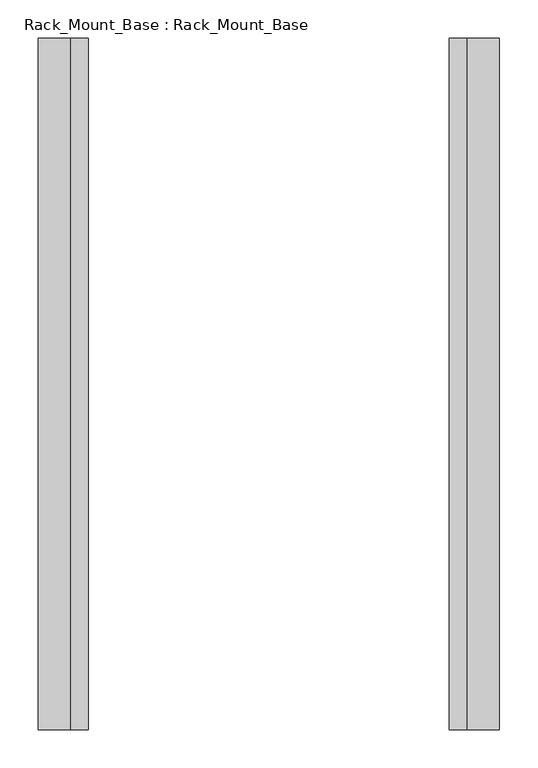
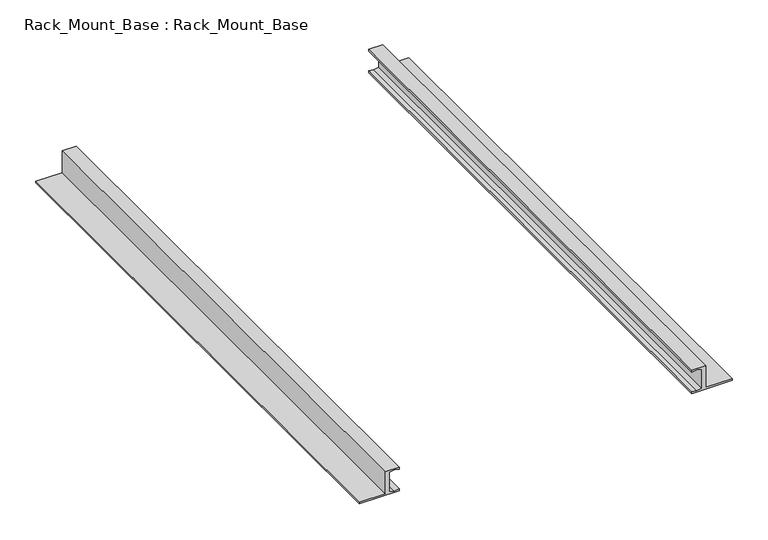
"""IFC4 building model written with IfcOpenShell, lengths in millimetres: proxy geometry, Rack_Mount_Base : Rack_Mount_Base."""

import ifcopenshell
import ifcopenshell.guid

model = None  # the IFC model being written
_history = None  # IfcOwnerHistory: only IFC2X3 demands one
_inside = {}  # id of a spatial element -> (the spatial element, [elements in it])
_under = {}  # id of a project, library or spatial element -> (it, [spatial elements below it])
_declared = {}  # id of a project -> (the project, [libraries it declares])
_typed = {}  # id of a type object -> (the type object, [elements of that type])
_made_of = {}  # id of a material, layer set ... -> (it, [elements and type objects made of it])


def new_model(schema):
    """Start an empty IFC model of exactly this schema.

    Asked for "IFC4X3", IfcOpenShell would pick the latest addendum, in which some entities
    have other attributes; the version numbers below select the first issue.
    IFC2X3 requires an IfcOwnerHistory on every rooted entity: one is made here for all.
    """
    global model, _history
    if schema == "IFC4X3":
        model = ifcopenshell.file(schema_version=(4, 3, 0, 0))
    else:
        model = ifcopenshell.file(schema=schema)
    _inside.clear()
    _under.clear()
    _declared.clear()
    _typed.clear()
    _made_of.clear()
    _history = None
    if model.schema == "IFC2X3":
        org = make("IfcOrganization", Name="unknown")
        user = make(
            "IfcPersonAndOrganization",
            ThePerson=make("IfcPerson", FamilyName="unknown"),
            TheOrganization=org,
        )
        app = make(
            "IfcApplication",
            ApplicationDeveloper=org,
            Version="unknown",
            ApplicationFullName="unknown",
            ApplicationIdentifier="unknown",
        )
        _history = make(
            "IfcOwnerHistory",
            OwningUser=user,
            OwningApplication=app,
            ChangeAction="ADDED",
            CreationDate=0,
        )
    return model


def make(cls, **values):
    """One entity of the class cls with the attributes given. An attribute that is None is left unset."""
    return model.create_entity(
        cls, **{name: value for name, value in values.items() if value is not None}
    )


def rooted(cls, **values):
    """An entity with a GlobalId (a new one), such as an element, a storey or a relation."""
    return make(cls, GlobalId=ifcopenshell.guid.new(), OwnerHistory=_history, **values)


def si_unit(unit_type, name, prefix=None):
    """IfcSIUnit, for example si_unit("LENGTHUNIT", "METRE", prefix="MILLI")."""
    return make("IfcSIUnit", UnitType=unit_type, Prefix=prefix, Name=name)


def assignment(units):
    """IfcUnitAssignment: the units of a project."""
    return None if units is None else make("IfcUnitAssignment", Units=units)


def point(xyz):
    """IfcCartesianPoint."""
    return None if xyz is None else make("IfcCartesianPoint", Coordinates=xyz)


def direction(xyz):
    """IfcDirection."""
    return None if xyz is None else make("IfcDirection", DirectionRatios=xyz)


def frame(location, z_axis=None, x_axis=None):
    """IfcAxis2Placement3D, a coordinate frame: its origin and axes. An axis left out is left unset."""
    return make(
        "IfcAxis2Placement3D",
        Location=point(location),
        Axis=direction(z_axis),
        RefDirection=direction(x_axis),
    )


def origin():
    """The frame at (0, 0, 0) with its axes left unset."""
    return frame((0.0, 0.0, 0.0))


def place(relative_to, where):
    """IfcLocalPlacement: puts the frame where relative to a parent placement (None: the world)."""
    return make(
        "IfcLocalPlacement", PlacementRelTo=relative_to, RelativePlacement=where
    )


def context(
    kind, dimensions, precision=None, world=None, true_north=None, identifier=None
):
    """IfcGeometricRepresentationContext, for example the 3D "Model" context."""
    return make(
        "IfcGeometricRepresentationContext",
        ContextIdentifier=identifier,
        ContextType=kind,
        CoordinateSpaceDimension=dimensions,
        Precision=precision,
        WorldCoordinateSystem=world,
        TrueNorth=true_north,
    )


def project(units=None, contexts=None):
    """IfcProject with its units and contexts."""
    return rooted(
        "IfcProject",
        Name="project",
        RepresentationContexts=contexts,
        UnitsInContext=assignment(units),
    )


def spatial(cls, under=None, at=None, **own):
    """A site, building, storey or space (cls), placed at a placement, below another one or the project."""
    s = rooted(cls, ObjectPlacement=at, **own)
    if under is not None:
        _under.setdefault(under.id(), (under, []))[1].append(s)
    return s


def polyline(points):
    """IfcPolyline through the points."""
    return make("IfcPolyline", Points=[point(p) for p in points])


def outline(outer, holes=None, kind="AREA"):
    """IfcArbitraryClosedProfileDef: a profile drawn as a closed curve; with holes, ...WithVoids."""
    if holes is None:
        return make("IfcArbitraryClosedProfileDef", ProfileType=kind, OuterCurve=outer)
    return make(
        "IfcArbitraryProfileDefWithVoids",
        ProfileType=kind,
        OuterCurve=outer,
        InnerCurves=holes,
    )


def extrude(swept, where, along, depth):
    """IfcExtrudedAreaSolid: the profile swept, set in the frame where, extruded along a direction by depth."""
    return make(
        "IfcExtrudedAreaSolid",
        SweptArea=swept,
        Position=where,
        ExtrudedDirection=direction(along),
        Depth=depth,
    )


def shape(context_of_items, identifier, shape_type, items):
    """IfcShapeRepresentation: the items that make up one representation, for example the "Body"."""
    return make(
        "IfcShapeRepresentation",
        ContextOfItems=context_of_items,
        RepresentationIdentifier=identifier,
        RepresentationType=shape_type,
        Items=items,
    )


def source(mapping_origin, context_of_items, identifier, shape_type, items):
    """IfcRepresentationMap: a shape defined once, which mapped items show again and again."""
    return make(
        "IfcRepresentationMap",
        MappingOrigin=mapping_origin,
        MappedRepresentation=shape(context_of_items, identifier, shape_type, items),
    )


def transform(
    local_origin,
    x_axis=None,
    y_axis=None,
    z_axis=None,
    scale=None,
    scale2=None,
    scale3=None,
    uniform=True,
):
    """IfcCartesianTransformationOperator3D, or its non-uniform kind. x_axis, y_axis, z_axis: its Axis1, 2, 3."""
    if uniform:
        return make(
            "IfcCartesianTransformationOperator3D",
            Axis1=direction(x_axis),
            Axis2=direction(y_axis),
            LocalOrigin=point(local_origin),
            Scale=scale,
            Axis3=direction(z_axis),
        )
    return make(
        "IfcCartesianTransformationOperator3DnonUniform",
        Axis1=direction(x_axis),
        Axis2=direction(y_axis),
        LocalOrigin=point(local_origin),
        Scale=scale,
        Axis3=direction(z_axis),
        Scale2=scale2,
        Scale3=scale3,
    )


def mapped(mapping_source, mapping_target):
    """IfcMappedItem: shows the shape of a source again, moved by a transform."""
    return make(
        "IfcMappedItem", MappingSource=mapping_source, MappingTarget=mapping_target
    )


def made_of(thing, what):
    """Note that an element or type object is made of a material, layer set ...; save() writes the relation."""
    if what is not None:
        _made_of.setdefault(what.id(), (what, []))[1].append(thing)
    return thing


def element(
    cls,
    number,
    at=None,
    inside=None,
    cuts=None,
    type_object=None,
    material=None,
    context=None,
    identifier="Body",
    shape_type=None,
    held_by="IfcProductDefinitionShape",
    body=None,
    shapes=None,
    **own,
):
    """One element of the class cls, such as IfcWall. Its Tag is "e" and its number.

    at: its placement. inside: the storey or other place that contains it. cuts: it is an
    opening in that element (IfcRelVoidsElement). A single representation is given by context,
    identifier, shape_type and body (its items); several are given by shapes. held_by: the class
    of the entity that holds the representations. save() writes the other relations.
    """
    e = rooted(cls, Tag="e%d" % number, ObjectPlacement=at, **own)
    if body is not None:
        shapes = [shape(context, identifier, shape_type, body)]
    if shapes is not None:
        e.Representation = make(held_by, Representations=shapes)
    if inside is not None:
        _inside.setdefault(inside.id(), (inside, []))[1].append(e)
    if cuts is not None:
        rooted(
            "IfcRelVoidsElement", RelatingBuildingElement=cuts, RelatedOpeningElement=e
        )
    if type_object is not None:
        _typed.setdefault(type_object.id(), (type_object, []))[1].append(e)
    return made_of(e, material)


def aggregate(whole, parts):
    """IfcRelAggregates: a whole, such as a stair, and the parts it consists of."""
    return rooted("IfcRelAggregates", RelatingObject=whole, RelatedObjects=parts)


def save(model, path):
    """Write the relations noted so far, then the file.

    IfcRelAggregates (storeys below a building ...), IfcRelContainedInSpatialStructure (elements
    in a storey), IfcRelDefinesByType, IfcRelAssociatesMaterial and IfcRelDeclares: one each for
    every whole, place, type object, material and project.
    """
    for whole, parts in _under.values():
        aggregate(whole, parts)
    for where, things in _inside.values():
        rooted(
            "IfcRelContainedInSpatialStructure",
            RelatedElements=things,
            RelatingStructure=where,
        )
    for kind, things in _typed.values():
        rooted("IfcRelDefinesByType", RelatedObjects=things, RelatingType=kind)
    for what, things in _made_of.values():
        rooted("IfcRelAssociatesMaterial", RelatedObjects=things, RelatingMaterial=what)
    for by, libraries in _declared.values():
        rooted("IfcRelDeclares", RelatingContext=by, RelatedDefinitions=libraries)
    model.write(path)


def rack_mount_base_rack_mount_base_61a671b6(model_context):
    return source(origin(), model_context, "Body", "SweptSolid", [
        extrude(outline(polyline([(0.0, 0.0), (0.0, 65.0), (3.53644, 65.0), (2.0364404, 57.0000005), (3.5364397, 48.9999982), (36.4977283, 48.9999982), (37.9977287, 57.0000005), (36.4977283, 64.9999982), (39.9999999, 64.9999982), (39.9999999, 41.9999985), (2.9999995, 41.9999985), (2.9999995, 0.0), (0.0, 0.0)])), frame((0.0, -900.0, 0.0), z_axis=(0.0, 1.0, 0.0), x_axis=(0.0, 0.0, 1.0)), (0.0, 0.0, 1.0), 900.0),
        extrude(outline(polyline([(0.0, 600.0), (2.9999995, 600.0), (2.9999995, 558.0000015), (39.9999999, 558.0000015), (39.9999999, 535.0000018), (36.4977283, 535.0000018), (37.9977287, 542.9999995), (36.4977283, 551.0000018), (3.5364397, 551.0000018), (2.0364404, 542.9999995), (3.53644, 535.0), (0.0, 535.0), (0.0, 600.0)])), frame((0.0, -900.0, 0.0), z_axis=(0.0, 1.0, 0.0), x_axis=(0.0, 0.0, 1.0)), (0.0, 0.0, 1.0), 900.0),
    ])


if __name__ == "__main__":
    model = new_model("IFC4")
    model_context = context("Model", 3, world=origin())
    ifc_project = project(units=[si_unit("LENGTHUNIT", "METRE", prefix="MILLI")], contexts=[model_context])
    site = spatial("IfcSite", under=ifc_project)
    building = spatial("IfcBuilding", under=site)
    placement = place(None, origin())
    rack_mount_base_rack_mount_base_shape = rack_mount_base_rack_mount_base_61a671b6(model_context)
    element("IfcBuildingElementProxy", 1, Name="Rack_Mount_Base : Rack_Mount_Base", ObjectType="Rack_Mount_Base : Rack_Mount_Base", at=placement, inside=building, context=model_context, shape_type="MappedRepresentation", body=[
        mapped(rack_mount_base_rack_mount_base_shape, transform((0.0, 0.0, 0.0), x_axis=(1.0, 0.0, 0.0), y_axis=(0.0, 1.0, 0.0), z_axis=(0.0, 0.0, 1.0))),
    ])
    save(model, "model.ifc")
